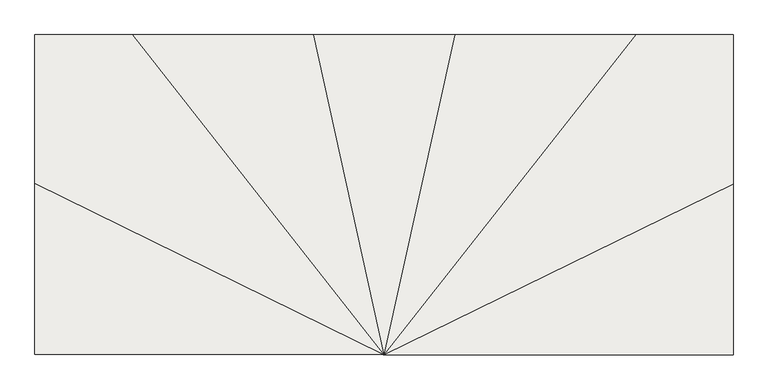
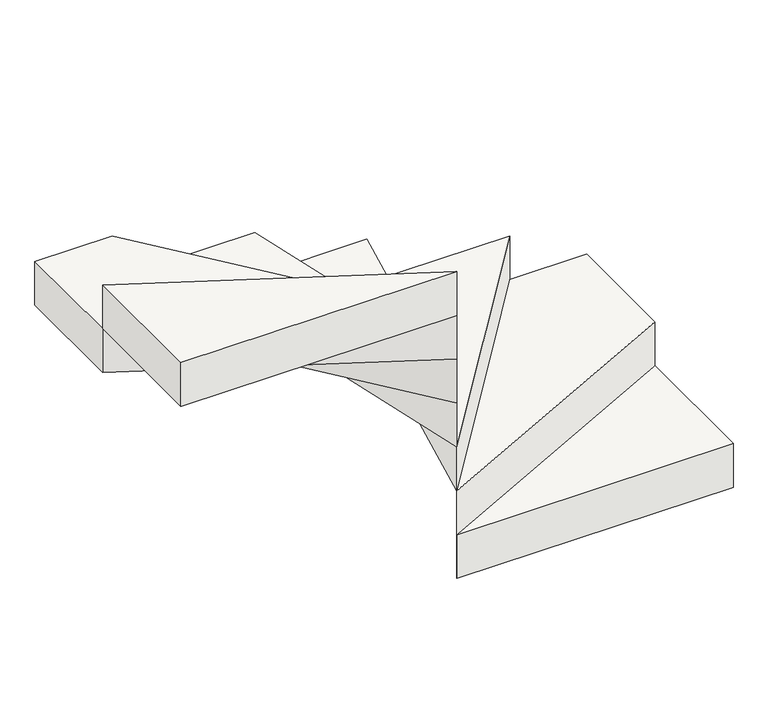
"""IFC4 building model written with IfcOpenShell, lengths in millimetres: slab geometry, Peldaño 2 : Peldaño 1."""

import ifcopenshell
import ifcopenshell.guid

model = None  # the IFC model being written
_history = None  # IfcOwnerHistory: only IFC2X3 demands one
_inside = {}  # id of a spatial element -> (the spatial element, [elements in it])
_under = {}  # id of a project, library or spatial element -> (it, [spatial elements below it])
_declared = {}  # id of a project -> (the project, [libraries it declares])
_typed = {}  # id of a type object -> (the type object, [elements of that type])
_made_of = {}  # id of a material, layer set ... -> (it, [elements and type objects made of it])


def new_model(schema):
    """Start an empty IFC model of exactly this schema.

    Asked for "IFC4X3", IfcOpenShell would pick the latest addendum, in which some entities
    have other attributes; the version numbers below select the first issue.
    IFC2X3 requires an IfcOwnerHistory on every rooted entity: one is made here for all.
    """
    global model, _history
    if schema == "IFC4X3":
        model = ifcopenshell.file(schema_version=(4, 3, 0, 0))
    else:
        model = ifcopenshell.file(schema=schema)
    _inside.clear()
    _under.clear()
    _declared.clear()
    _typed.clear()
    _made_of.clear()
    _history = None
    if model.schema == "IFC2X3":
        org = make("IfcOrganization", Name="unknown")
        user = make(
            "IfcPersonAndOrganization",
            ThePerson=make("IfcPerson", FamilyName="unknown"),
            TheOrganization=org,
        )
        app = make(
            "IfcApplication",
            ApplicationDeveloper=org,
            Version="unknown",
            ApplicationFullName="unknown",
            ApplicationIdentifier="unknown",
        )
        _history = make(
            "IfcOwnerHistory",
            OwningUser=user,
            OwningApplication=app,
            ChangeAction="ADDED",
            CreationDate=0,
        )
    return model


def make(cls, **values):
    """One entity of the class cls with the attributes given. An attribute that is None is left unset."""
    return model.create_entity(
        cls, **{name: value for name, value in values.items() if value is not None}
    )


def rooted(cls, **values):
    """An entity with a GlobalId (a new one), such as an element, a storey or a relation."""
    return make(cls, GlobalId=ifcopenshell.guid.new(), OwnerHistory=_history, **values)


def si_unit(unit_type, name, prefix=None):
    """IfcSIUnit, for example si_unit("LENGTHUNIT", "METRE", prefix="MILLI")."""
    return make("IfcSIUnit", UnitType=unit_type, Prefix=prefix, Name=name)


def assignment(units):
    """IfcUnitAssignment: the units of a project."""
    return None if units is None else make("IfcUnitAssignment", Units=units)


def point(xyz):
    """IfcCartesianPoint."""
    return None if xyz is None else make("IfcCartesianPoint", Coordinates=xyz)


def direction(xyz):
    """IfcDirection."""
    return None if xyz is None else make("IfcDirection", DirectionRatios=xyz)


def frame(location, z_axis=None, x_axis=None):
    """IfcAxis2Placement3D, a coordinate frame: its origin and axes. An axis left out is left unset."""
    return make(
        "IfcAxis2Placement3D",
        Location=point(location),
        Axis=direction(z_axis),
        RefDirection=direction(x_axis),
    )


def origin():
    """The frame at (0, 0, 0) with its axes left unset."""
    return frame((0.0, 0.0, 0.0))


def place(relative_to, where):
    """IfcLocalPlacement: puts the frame where relative to a parent placement (None: the world)."""
    return make(
        "IfcLocalPlacement", PlacementRelTo=relative_to, RelativePlacement=where
    )


def context(
    kind, dimensions, precision=None, world=None, true_north=None, identifier=None
):
    """IfcGeometricRepresentationContext, for example the 3D "Model" context."""
    return make(
        "IfcGeometricRepresentationContext",
        ContextIdentifier=identifier,
        ContextType=kind,
        CoordinateSpaceDimension=dimensions,
        Precision=precision,
        WorldCoordinateSystem=world,
        TrueNorth=true_north,
    )


def project(units=None, contexts=None):
    """IfcProject with its units and contexts."""
    return rooted(
        "IfcProject",
        Name="project",
        RepresentationContexts=contexts,
        UnitsInContext=assignment(units),
    )


def spatial(cls, under=None, at=None, **own):
    """A site, building, storey or space (cls), placed at a placement, below another one or the project."""
    s = rooted(cls, ObjectPlacement=at, **own)
    if under is not None:
        _under.setdefault(under.id(), (under, []))[1].append(s)
    return s


def polyline(points):
    """IfcPolyline through the points."""
    return make("IfcPolyline", Points=[point(p) for p in points])


def outline(outer, holes=None, kind="AREA"):
    """IfcArbitraryClosedProfileDef: a profile drawn as a closed curve; with holes, ...WithVoids."""
    if holes is None:
        return make("IfcArbitraryClosedProfileDef", ProfileType=kind, OuterCurve=outer)
    return make(
        "IfcArbitraryProfileDefWithVoids",
        ProfileType=kind,
        OuterCurve=outer,
        InnerCurves=holes,
    )


def extrude(swept, where, along, depth):
    """IfcExtrudedAreaSolid: the profile swept, set in the frame where, extruded along a direction by depth."""
    return make(
        "IfcExtrudedAreaSolid",
        SweptArea=swept,
        Position=where,
        ExtrudedDirection=direction(along),
        Depth=depth,
    )


def shape(context_of_items, identifier, shape_type, items):
    """IfcShapeRepresentation: the items that make up one representation, for example the "Body"."""
    return make(
        "IfcShapeRepresentation",
        ContextOfItems=context_of_items,
        RepresentationIdentifier=identifier,
        RepresentationType=shape_type,
        Items=items,
    )


def source(mapping_origin, context_of_items, identifier, shape_type, items):
    """IfcRepresentationMap: a shape defined once, which mapped items show again and again."""
    return make(
        "IfcRepresentationMap",
        MappingOrigin=mapping_origin,
        MappedRepresentation=shape(context_of_items, identifier, shape_type, items),
    )


def transform(
    local_origin,
    x_axis=None,
    y_axis=None,
    z_axis=None,
    scale=None,
    scale2=None,
    scale3=None,
    uniform=True,
):
    """IfcCartesianTransformationOperator3D, or its non-uniform kind. x_axis, y_axis, z_axis: its Axis1, 2, 3."""
    if uniform:
        return make(
            "IfcCartesianTransformationOperator3D",
            Axis1=direction(x_axis),
            Axis2=direction(y_axis),
            LocalOrigin=point(local_origin),
            Scale=scale,
            Axis3=direction(z_axis),
        )
    return make(
        "IfcCartesianTransformationOperator3DnonUniform",
        Axis1=direction(x_axis),
        Axis2=direction(y_axis),
        LocalOrigin=point(local_origin),
        Scale=scale,
        Axis3=direction(z_axis),
        Scale2=scale2,
        Scale3=scale3,
    )


def mapped(mapping_source, mapping_target):
    """IfcMappedItem: shows the shape of a source again, moved by a transform."""
    return make(
        "IfcMappedItem", MappingSource=mapping_source, MappingTarget=mapping_target
    )


def made_of(thing, what):
    """Note that an element or type object is made of a material, layer set ...; save() writes the relation."""
    if what is not None:
        _made_of.setdefault(what.id(), (what, []))[1].append(thing)
    return thing


def element(
    cls,
    number,
    at=None,
    inside=None,
    cuts=None,
    type_object=None,
    material=None,
    context=None,
    identifier="Body",
    shape_type=None,
    held_by="IfcProductDefinitionShape",
    body=None,
    shapes=None,
    **own,
):
    """One element of the class cls, such as IfcWall. Its Tag is "e" and its number.

    at: its placement. inside: the storey or other place that contains it. cuts: it is an
    opening in that element (IfcRelVoidsElement). A single representation is given by context,
    identifier, shape_type and body (its items); several are given by shapes. held_by: the class
    of the entity that holds the representations. save() writes the other relations.
    """
    e = rooted(cls, Tag="e%d" % number, ObjectPlacement=at, **own)
    if body is not None:
        shapes = [shape(context, identifier, shape_type, body)]
    if shapes is not None:
        e.Representation = make(held_by, Representations=shapes)
    if inside is not None:
        _inside.setdefault(inside.id(), (inside, []))[1].append(e)
    if cuts is not None:
        rooted(
            "IfcRelVoidsElement", RelatingBuildingElement=cuts, RelatedOpeningElement=e
        )
    if type_object is not None:
        _typed.setdefault(type_object.id(), (type_object, []))[1].append(e)
    return made_of(e, material)


def aggregate(whole, parts):
    """IfcRelAggregates: a whole, such as a stair, and the parts it consists of."""
    return rooted("IfcRelAggregates", RelatingObject=whole, RelatedObjects=parts)


def save(model, path):
    """Write the relations noted so far, then the file.

    IfcRelAggregates (storeys below a building ...), IfcRelContainedInSpatialStructure (elements
    in a storey), IfcRelDefinesByType, IfcRelAssociatesMaterial and IfcRelDeclares: one each for
    every whole, place, type object, material and project.
    """
    for whole, parts in _under.values():
        aggregate(whole, parts)
    for where, things in _inside.values():
        rooted(
            "IfcRelContainedInSpatialStructure",
            RelatedElements=things,
            RelatingStructure=where,
        )
    for kind, things in _typed.values():
        rooted("IfcRelDefinesByType", RelatedObjects=things, RelatingType=kind)
    for what, things in _made_of.values():
        rooted("IfcRelAssociatesMaterial", RelatedObjects=things, RelatingMaterial=what)
    for by, libraries in _declared.values():
        rooted("IfcRelDeclares", RelatingContext=by, RelatedDefinitions=libraries)
    model.write(path)


def slab_d0d15f66(model_context):
    return source(origin(), model_context, "Body", "SweptSolid", [
        extrude(outline(polyline([(9215.0, 7645.5172414), (9215.0, 8185.5172414), (10314.0698338, 7644.0656057), (9215.0, 7645.5172414)])), frame((0.0, 0.0, 2605.0811641), z_axis=(0.0, 0.0, 1.0), x_axis=(1.0, 0.0, 0.0)), (0.0, 0.0, 1.0), 185.0),
        extrude(outline(polyline([(9522.5030455, 8653.9378049), (10314.0698338, 7644.0656057), (9215.0, 8185.5172414), (9215.0, 8653.9378049), (9522.5030455, 8653.9378049)])), frame((0.0, 0.0, 2420.0811641), z_axis=(0.0, 0.0, 1.0), x_axis=(1.0, 0.0, 0.0)), (0.0, 0.0, 1.0), 185.0),
        extrude(outline(polyline([(9522.5030455, 8653.9378049), (10091.9400865, 8653.9378049), (10314.0698338, 7644.0656057), (9522.5030455, 8653.9378049)])), frame((0.0, 0.0, 2235.0811641), z_axis=(0.0, 0.0, 1.0), x_axis=(1.0, 0.0, 0.0)), (0.0, 0.0, 1.0), 185.0),
        extrude(outline(polyline([(10091.9400865, 8653.9378049), (10538.0599135, 8653.9378049), (10314.0698338, 7644.0656057), (10091.9400865, 8653.9378049)])), frame((0.0, 0.0, 2050.0811641), z_axis=(0.0, 0.0, 1.0), x_axis=(1.0, 0.0, 0.0)), (0.0, 0.0, 1.0), 185.0),
        extrude(outline(polyline([(10538.0599135, 8653.9378049), (11107.4969545, 8653.9378049), (10314.0698338, 7644.0656057), (10538.0599135, 8653.9378049)])), frame((0.0, 0.0, 1865.0811641), z_axis=(0.0, 0.0, 1.0), x_axis=(1.0, 0.0, 0.0)), (0.0, 0.0, 1.0), 185.0),
        extrude(outline(polyline([(11415.0, 8653.9378049), (11415.0, 8183.9378049), (10314.0698338, 7644.0656057), (11107.4969545, 8653.9378049), (11415.0, 8653.9378049)])), frame((0.0, 0.0, 1495.0811641), z_axis=(0.0, 0.0, 1.0), x_axis=(1.0, 0.0, 0.0)), (0.0, 0.0, 1.0), 370.0),
        extrude(outline(polyline([(11415.0, 8183.9378049), (11415.0, 7644.0656057), (10314.0698338, 7644.0656057), (11415.0, 8183.9378049)])), frame((0.0, 0.0, 1495.0811641), z_axis=(0.0, 0.0, 1.0), x_axis=(1.0, 0.0, 0.0)), (0.0, 0.0, 1.0), 185.0),
    ])


if __name__ == "__main__":
    model = new_model("IFC4")
    model_context = context("Model", 3, world=origin())
    ifc_project = project(units=[si_unit("LENGTHUNIT", "METRE", prefix="MILLI")], contexts=[model_context])
    site = spatial("IfcSite", under=ifc_project)
    building = spatial("IfcBuilding", under=site)
    placement = place(None, origin())
    slab_shape = slab_d0d15f66(model_context)
    element("IfcSlab", 1, ObjectType="Peldaño 2 : Peldaño 1", at=placement, inside=building, context=model_context, shape_type="MappedRepresentation", body=[
        mapped(slab_shape, transform((0.0, 0.0, 0.0), x_axis=(1.0, 0.0, 0.0), y_axis=(0.0, 1.0, 0.0), z_axis=(0.0, 0.0, 1.0))),
    ])
    save(model, "model.ifc")
